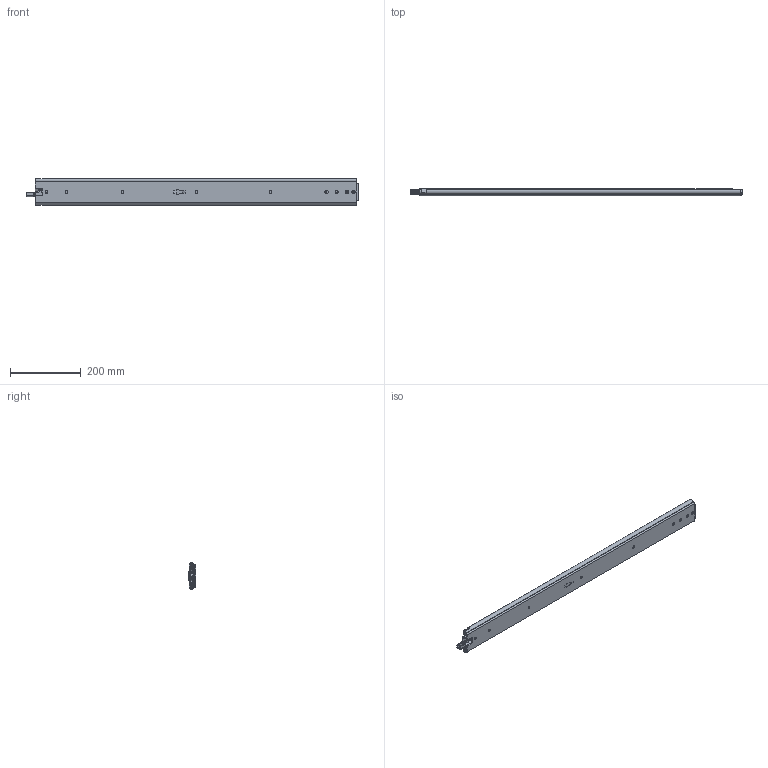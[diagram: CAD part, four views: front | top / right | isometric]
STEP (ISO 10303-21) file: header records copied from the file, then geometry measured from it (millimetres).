
FILE_DESCRIPTION((''),'2;1');
FILE_NAME('DG-76-3S-36ZUO_ASM','2023-05-10T',('jishu015'),(''),'PRO/ENGINEER BY PARAMETRIC TECHNOLOGY CORPORATION, 2010280','PRO/ENGINEER BY PARAMETRIC TECHNOLOGY CORPORATION, 2010280','');
FILE_SCHEMA(('CONFIG_CONTROL_DESIGN'));
Products named in the file (29): KP-76-04WAIKE-1816________; 1076-WAIKEZIDANJIAO16________; WAIK16_________ASM; 1076XIAOZHUTIAO-22516________; 16________; 1076XIAOZHUTIAO-17516_________ASM; KP-76-04ZHONGGUI1816________; 76CHANGGUIZHONGGUIJIAO1621; 3X6WODIN16________; ZHONGGUIBAIKOU16________; PJ-76-30_______; PJ-76-03_______; 76-XIAOZHUJIA-11_______; GANGZHU-XIAO_______; ZHUJIA-XIAO________ASM; ZHONGGUI6_________ASM; KP-76-04NEIGUI1816________; PJ-76-31_______; DAOGPIAN16________; 1053-3SBANJ01_______; JIAO-11_______; 76XINSUOKOU_______; PJ-338_______; PJ-356_______; PJ-357_______; PJ-336_______; M4X4_______; NEIGUI16_________ASM; DG-76-3S-36ZUO_ASM
Assembly tree (76 placements, depth 4):
  DG-76-3S-36ZUO_ASM
    WAIK16_________ASM
      KP-76-04WAIKE-1816________
      1076-WAIKEZIDANJIAO16________  x2
    1076XIAOZHUTIAO-17516_________ASM  x2
      1076XIAOZHUTIAO-22516________
      16________
    ZHONGGUI6_________ASM
      KP-76-04ZHONGGUI1816________
      76CHANGGUIZHONGGUIJIAO1621
      3X6WODIN16________
      ZHONGGUIBAIKOU16________
      PJ-76-30_______
      PJ-76-03_______
      ZHUJIA-XIAO________ASM
        76-XIAOZHUJIA-11_______
        GANGZHU-XIAO_______  x32
    NEIGUI16_________ASM
      KP-76-04NEIGUI1816________
      PJ-76-31_______
      DAOGPIAN16________
      1053-3SBANJ01_______
      JIAO-11_______
      76XINSUOKOU_______
      PJ-338_______
      PJ-356_______
      PJ-357_______
      PJ-336_______
      M4X4_______
Bounding box: 940.32 x 20.7 x 75.3 mm (x, y, z)
Volume: 601516.1 mm3; surface area: 578543.6 mm2
Topology: 88 solids, 88 shells, 2225 faces, 6714 edges, 4252 vertices
Faces by surface type: plane 1145, cylinder 818, sphere 135, bspline 60, cone 28, extrusion 23, torus 16
Entity records: 72354 total; most frequent: CARTESIAN_POINT 19378, ORIENTED_EDGE 11544, DIRECTION 10531, EDGE_CURVE 5772, VERTEX_POINT 3760, AXIS2_PLACEMENT_3D 3622, VECTOR 3287, LINE 3264
